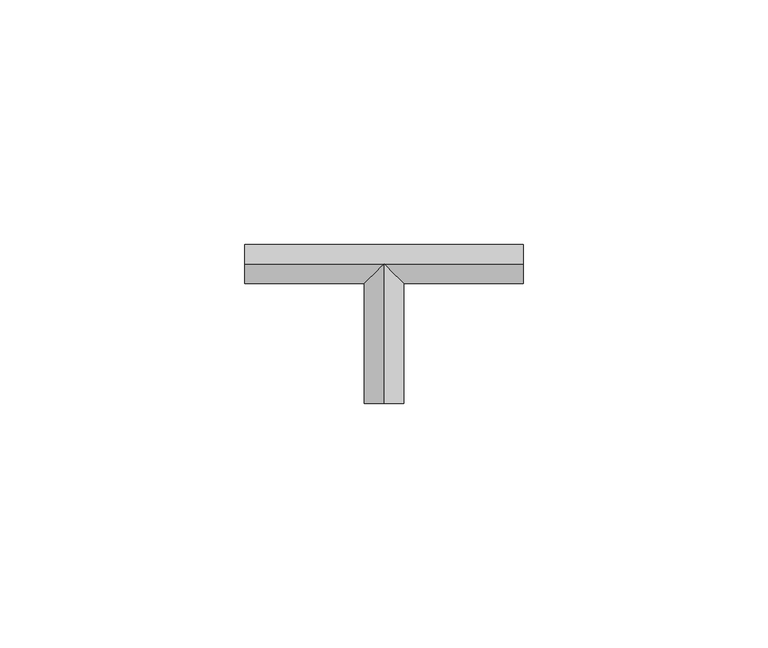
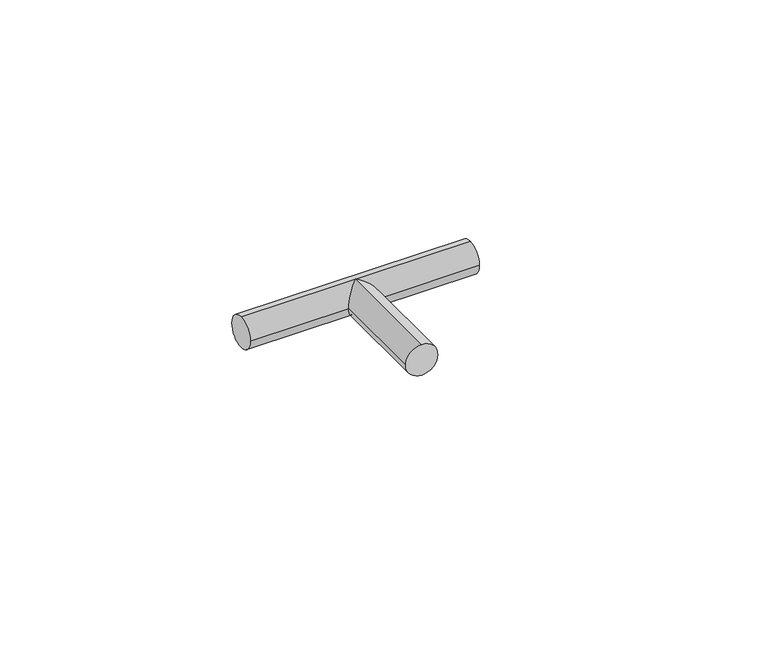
"""IFC4 building model written with IfcOpenShell, lengths in millimetres: duct fitting geometry, КНС_Тройник_Пруток_Неспецифицируемое_DKC : NG3104CU_NG3109CU_Медь."""

import ifcopenshell
import ifcopenshell.guid

model = None  # the IFC model being written
_history = None  # IfcOwnerHistory: only IFC2X3 demands one
_inside = {}  # id of a spatial element -> (the spatial element, [elements in it])
_under = {}  # id of a project, library or spatial element -> (it, [spatial elements below it])
_declared = {}  # id of a project -> (the project, [libraries it declares])
_typed = {}  # id of a type object -> (the type object, [elements of that type])
_made_of = {}  # id of a material, layer set ... -> (it, [elements and type objects made of it])


def new_model(schema):
    """Start an empty IFC model of exactly this schema.

    Asked for "IFC4X3", IfcOpenShell would pick the latest addendum, in which some entities
    have other attributes; the version numbers below select the first issue.
    IFC2X3 requires an IfcOwnerHistory on every rooted entity: one is made here for all.
    """
    global model, _history
    if schema == "IFC4X3":
        model = ifcopenshell.file(schema_version=(4, 3, 0, 0))
    else:
        model = ifcopenshell.file(schema=schema)
    _inside.clear()
    _under.clear()
    _declared.clear()
    _typed.clear()
    _made_of.clear()
    _history = None
    if model.schema == "IFC2X3":
        org = make("IfcOrganization", Name="unknown")
        user = make(
            "IfcPersonAndOrganization",
            ThePerson=make("IfcPerson", FamilyName="unknown"),
            TheOrganization=org,
        )
        app = make(
            "IfcApplication",
            ApplicationDeveloper=org,
            Version="unknown",
            ApplicationFullName="unknown",
            ApplicationIdentifier="unknown",
        )
        _history = make(
            "IfcOwnerHistory",
            OwningUser=user,
            OwningApplication=app,
            ChangeAction="ADDED",
            CreationDate=0,
        )
    return model


def make(cls, **values):
    """One entity of the class cls with the attributes given. An attribute that is None is left unset."""
    return model.create_entity(
        cls, **{name: value for name, value in values.items() if value is not None}
    )


def rooted(cls, **values):
    """An entity with a GlobalId (a new one), such as an element, a storey or a relation."""
    return make(cls, GlobalId=ifcopenshell.guid.new(), OwnerHistory=_history, **values)


def si_unit(unit_type, name, prefix=None):
    """IfcSIUnit, for example si_unit("LENGTHUNIT", "METRE", prefix="MILLI")."""
    return make("IfcSIUnit", UnitType=unit_type, Prefix=prefix, Name=name)


def assignment(units):
    """IfcUnitAssignment: the units of a project."""
    return None if units is None else make("IfcUnitAssignment", Units=units)


def point(xyz):
    """IfcCartesianPoint."""
    return None if xyz is None else make("IfcCartesianPoint", Coordinates=xyz)


def direction(xyz):
    """IfcDirection."""
    return None if xyz is None else make("IfcDirection", DirectionRatios=xyz)


def frame(location, z_axis=None, x_axis=None):
    """IfcAxis2Placement3D, a coordinate frame: its origin and axes. An axis left out is left unset."""
    return make(
        "IfcAxis2Placement3D",
        Location=point(location),
        Axis=direction(z_axis),
        RefDirection=direction(x_axis),
    )


def origin():
    """The frame at (0, 0, 0) with its axes left unset."""
    return frame((0.0, 0.0, 0.0))


def place(relative_to, where):
    """IfcLocalPlacement: puts the frame where relative to a parent placement (None: the world)."""
    return make(
        "IfcLocalPlacement", PlacementRelTo=relative_to, RelativePlacement=where
    )


def context(
    kind, dimensions, precision=None, world=None, true_north=None, identifier=None
):
    """IfcGeometricRepresentationContext, for example the 3D "Model" context."""
    return make(
        "IfcGeometricRepresentationContext",
        ContextIdentifier=identifier,
        ContextType=kind,
        CoordinateSpaceDimension=dimensions,
        Precision=precision,
        WorldCoordinateSystem=world,
        TrueNorth=true_north,
    )


def project(units=None, contexts=None):
    """IfcProject with its units and contexts."""
    return rooted(
        "IfcProject",
        Name="project",
        RepresentationContexts=contexts,
        UnitsInContext=assignment(units),
    )


def spatial(cls, under=None, at=None, **own):
    """A site, building, storey or space (cls), placed at a placement, below another one or the project."""
    s = rooted(cls, ObjectPlacement=at, **own)
    if under is not None:
        _under.setdefault(under.id(), (under, []))[1].append(s)
    return s


def circle_curve(where, radius):
    """IfcCircle in the frame where."""
    return make("IfcCircle", Position=where, Radius=radius)


def ellipse_curve(where, semi_axis1, semi_axis2):
    """IfcEllipse in the frame where."""
    return make(
        "IfcEllipse", Position=where, SemiAxis1=semi_axis1, SemiAxis2=semi_axis2
    )


def shape(context_of_items, identifier, shape_type, items):
    """IfcShapeRepresentation: the items that make up one representation, for example the "Body"."""
    return make(
        "IfcShapeRepresentation",
        ContextOfItems=context_of_items,
        RepresentationIdentifier=identifier,
        RepresentationType=shape_type,
        Items=items,
    )


def source(mapping_origin, context_of_items, identifier, shape_type, items):
    """IfcRepresentationMap: a shape defined once, which mapped items show again and again."""
    return make(
        "IfcRepresentationMap",
        MappingOrigin=mapping_origin,
        MappedRepresentation=shape(context_of_items, identifier, shape_type, items),
    )


def transform(
    local_origin,
    x_axis=None,
    y_axis=None,
    z_axis=None,
    scale=None,
    scale2=None,
    scale3=None,
    uniform=True,
):
    """IfcCartesianTransformationOperator3D, or its non-uniform kind. x_axis, y_axis, z_axis: its Axis1, 2, 3."""
    if uniform:
        return make(
            "IfcCartesianTransformationOperator3D",
            Axis1=direction(x_axis),
            Axis2=direction(y_axis),
            LocalOrigin=point(local_origin),
            Scale=scale,
            Axis3=direction(z_axis),
        )
    return make(
        "IfcCartesianTransformationOperator3DnonUniform",
        Axis1=direction(x_axis),
        Axis2=direction(y_axis),
        LocalOrigin=point(local_origin),
        Scale=scale,
        Axis3=direction(z_axis),
        Scale2=scale2,
        Scale3=scale3,
    )


def mapped(mapping_source, mapping_target):
    """IfcMappedItem: shows the shape of a source again, moved by a transform."""
    return make(
        "IfcMappedItem", MappingSource=mapping_source, MappingTarget=mapping_target
    )


def made_of(thing, what):
    """Note that an element or type object is made of a material, layer set ...; save() writes the relation."""
    if what is not None:
        _made_of.setdefault(what.id(), (what, []))[1].append(thing)
    return thing


def element(
    cls,
    number,
    at=None,
    inside=None,
    cuts=None,
    type_object=None,
    material=None,
    context=None,
    identifier="Body",
    shape_type=None,
    held_by="IfcProductDefinitionShape",
    body=None,
    shapes=None,
    **own,
):
    """One element of the class cls, such as IfcWall. Its Tag is "e" and its number.

    at: its placement. inside: the storey or other place that contains it. cuts: it is an
    opening in that element (IfcRelVoidsElement). A single representation is given by context,
    identifier, shape_type and body (its items); several are given by shapes. held_by: the class
    of the entity that holds the representations. save() writes the other relations.
    """
    e = rooted(cls, Tag="e%d" % number, ObjectPlacement=at, **own)
    if body is not None:
        shapes = [shape(context, identifier, shape_type, body)]
    if shapes is not None:
        e.Representation = make(held_by, Representations=shapes)
    if inside is not None:
        _inside.setdefault(inside.id(), (inside, []))[1].append(e)
    if cuts is not None:
        rooted(
            "IfcRelVoidsElement", RelatingBuildingElement=cuts, RelatedOpeningElement=e
        )
    if type_object is not None:
        _typed.setdefault(type_object.id(), (type_object, []))[1].append(e)
    return made_of(e, material)


def aggregate(whole, parts):
    """IfcRelAggregates: a whole, such as a stair, and the parts it consists of."""
    return rooted("IfcRelAggregates", RelatingObject=whole, RelatedObjects=parts)


def save(model, path):
    """Write the relations noted so far, then the file.

    IfcRelAggregates (storeys below a building ...), IfcRelContainedInSpatialStructure (elements
    in a storey), IfcRelDefinesByType, IfcRelAssociatesMaterial and IfcRelDeclares: one each for
    every whole, place, type object, material and project.
    """
    for whole, parts in _under.values():
        aggregate(whole, parts)
    for where, things in _inside.values():
        rooted(
            "IfcRelContainedInSpatialStructure",
            RelatedElements=things,
            RelatingStructure=where,
        )
    for kind, things in _typed.values():
        rooted("IfcRelDefinesByType", RelatedObjects=things, RelatingType=kind)
    for what, things in _made_of.values():
        rooted("IfcRelAssociatesMaterial", RelatedObjects=things, RelatingMaterial=what)
    for by, libraries in _declared.values():
        rooted("IfcRelDeclares", RelatingContext=by, RelatedDefinitions=libraries)
    model.write(path)


def plane_surface(at):
    """IfcPlane: the flat surface through the origin of the frame at, square to its z axis."""
    return make("IfcPlane", Position=at)


def cylinder_surface(at, radius):
    """IfcCylindricalSurface: all points at the distance radius from the z axis of the frame at."""
    return make("IfcCylindricalSurface", Position=at, Radius=radius)


def advanced_brep(points, edges, surfaces, faces):
    """IfcAdvancedBrep: a solid bounded by faces that lie on surfaces and meet in shared edges.

    An edge is (start, end): straight between two places in points (the first is 0);
    or (start, end, curve); or (start, end, curve, False) where it runs against its curve.
    A face is (place in surfaces, loops), or (place, loops, False) where it looks against
    its surface's normal. A loop lists edges by number (the first is 1), with a minus sign
    where the edge is run from its end to its start. The first loop is the outer one.
    """
    corners = [point(p) for p in points]
    vertices = [make("IfcVertexPoint", VertexGeometry=c) for c in corners]
    made = []
    for start, end, *more in edges:
        made.append(
            make(
                "IfcEdgeCurve",
                EdgeStart=vertices[start],
                EdgeEnd=vertices[end],
                EdgeGeometry=more[0] if more else make("IfcPolyline", Points=[corners[start], corners[end]]),
                SameSense=more[1] if len(more) > 1 else True,
            )
        )
    hull = []
    for where, loops, *sense in faces:
        bounds = []
        for j, loop in enumerate(loops):
            ring = [make("IfcOrientedEdge", EdgeElement=made[abs(k) - 1], Orientation=k > 0) for k in loop]
            bounds.append(
                make(
                    "IfcFaceOuterBound" if j == 0 else "IfcFaceBound",
                    Bound=make("IfcEdgeLoop", EdgeList=ring),
                    Orientation=True,
                )
            )
        hull.append(make("IfcAdvancedFace", Bounds=bounds, FaceSurface=surfaces[where], SameSense=sense[0] if sense else True))
    return make("IfcAdvancedBrep", Outer=make("IfcClosedShell", CfsFaces=hull))


def duct_fitting_7ecd3d40(model_context):
    return source(origin(), model_context, "Body", "AdvancedBrep", [
        advanced_brep(
        [(0.0, -28.5, 4.0), (-4.0, -28.5, 0.0), (0.0, -28.5, -4.0), (4.0, -28.5, 0.0), (4.0, -4.0, 0.0), (0.0, 0.0, 4.0), (0.0, 0.0, -4.0), (-4.0, -4.0, 0.0), (-28.5, 0.0, 4.0), (-28.5, 4.0, 0.0), (-28.5, 0.0, -4.0), (-28.5, -4.0, 0.0), (28.5, 0.0, 4.0), (28.5, -4.0, 0.0), (28.5, 0.0, -4.0), (28.5, 4.0, 0.0)],
        [
            (0, 1, circle_curve(frame((0.0, -28.5, 0.0), z_axis=(0.0, -1.0, 0.0), x_axis=(1.0, 0.0, 0.0)), 4.0)),
            (1, 2, circle_curve(frame((0.0, -28.5, 0.0), z_axis=(0.0, -1.0, 0.0), x_axis=(1.0, 0.0, 0.0)), 4.0)),
            (2, 3, circle_curve(frame((0.0, -28.5, 0.0), z_axis=(0.0, -1.0, 0.0), x_axis=(1.0, 0.0, 0.0)), 4.0)),
            (3, 0, circle_curve(frame((0.0, -28.5, 0.0), z_axis=(0.0, -1.0, 0.0), x_axis=(1.0, 0.0, 0.0)), 4.0)),
            (3, 4),
            (4, 5, ellipse_curve(frame((0.0, 0.0, 0.0), z_axis=(-0.7071067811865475, -0.7071067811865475, 0.0), x_axis=(-0.7071067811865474, 0.7071067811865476, 0.0)), 5.6568542, 4.0)),
            (5, 0),
            (2, 6),
            (6, 4, ellipse_curve(frame((0.0, 0.0, 0.0), z_axis=(-0.7071067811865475, -0.7071067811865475, 0.0), x_axis=(-0.7071067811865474, 0.7071067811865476, 0.0)), 5.6568542, 4.0)),
            (1, 7),
            (7, 6, ellipse_curve(frame((0.0, 0.0, 0.0), z_axis=(0.7071067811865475, -0.7071067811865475, 0.0), x_axis=(0.7071067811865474, 0.7071067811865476, 0.0)), 5.6568542, 4.0)),
            (5, 7, ellipse_curve(frame((0.0, 0.0, 0.0), z_axis=(0.7071067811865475, -0.7071067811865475, 0.0), x_axis=(0.7071067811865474, 0.7071067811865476, 0.0)), 5.6568542, 4.0)),
            (8, 9, circle_curve(frame((-28.5, 0.0, 0.0), z_axis=(-1.0, 0.0, 0.0), x_axis=(0.0, 1.0, 0.0)), 4.0)),
            (9, 10, circle_curve(frame((-28.5, 0.0, 0.0), z_axis=(-1.0, 0.0, 0.0), x_axis=(0.0, 1.0, 0.0)), 4.0)),
            (10, 11, circle_curve(frame((-28.5, 0.0, 0.0), z_axis=(-1.0, 0.0, 0.0), x_axis=(0.0, 1.0, 0.0)), 4.0)),
            (11, 8, circle_curve(frame((-28.5, 0.0, 0.0), z_axis=(-1.0, 0.0, 0.0), x_axis=(0.0, 1.0, 0.0)), 4.0)),
            (12, 13, circle_curve(frame((28.5, 0.0, 0.0), z_axis=(1.0, 0.0, 0.0), x_axis=(0.0, 1.0, 0.0)), 4.0)),
            (13, 14, circle_curve(frame((28.5, 0.0, 0.0), z_axis=(1.0, 0.0, 0.0), x_axis=(0.0, 1.0, 0.0)), 4.0)),
            (14, 15, circle_curve(frame((28.5, 0.0, 0.0), z_axis=(1.0, 0.0, 0.0), x_axis=(0.0, 1.0, 0.0)), 4.0)),
            (15, 12, circle_curve(frame((28.5, 0.0, 0.0), z_axis=(1.0, 0.0, 0.0), x_axis=(0.0, 1.0, 0.0)), 4.0)),
            (8, 5),
            (5, 12),
            (15, 9),
            (14, 6),
            (6, 10),
            (7, 11),
            (13, 4),
        ],
        [
            plane_surface(frame((0.0, -28.5, 0.0), z_axis=(0.0, -1.0, 0.0), x_axis=(0.0, 0.0, 1.0))),
            cylinder_surface(frame((0.0, 0.0, 0.0), z_axis=(0.0, 1.0, 0.0), x_axis=(1.0, 0.0, 0.0)), 4.0),
            plane_surface(frame((-28.5, 0.0, 0.0), z_axis=(-1.0, 0.0, 0.0), x_axis=(0.0, 0.0, 1.0))),
            plane_surface(frame((28.5, 0.0, 0.0), z_axis=(1.0, 0.0, 0.0), x_axis=(0.0, 0.0, 1.0))),
            cylinder_surface(frame((-28.5, 0.0, 0.0), z_axis=(-1.0, 0.0, 0.0), x_axis=(0.0, 1.0, 0.0)), 4.0),
        ],
        [
            (0, [[1, 2, 3, 4]]),
            (1, [[-4, 5, 6, 7]]),
            (1, [[-3, 8, 9, -5]]),
            (1, [[-2, 10, 11, -8]]),
            (1, [[-1, -7, 12, -10]]),
            (2, [[13, 14, 15, 16]]),
            (3, [[17, 18, 19, 20]]),
            (4, [[-13, 21, 22, -20, 23]]),
            (4, [[-14, -23, -19, 24, 25]]),
            (4, [[-15, -25, -11, 26]]),
            (4, [[-18, 27, -9, -24]]),
            (4, [[-16, -26, -12, -21]]),
            (4, [[-17, -22, -6, -27]]),
        ],
    ),
    ])


if __name__ == "__main__":
    model = new_model("IFC4")
    model_context = context("Model", 3, world=origin())
    ifc_project = project(units=[si_unit("LENGTHUNIT", "METRE", prefix="MILLI")], contexts=[model_context])
    site = spatial("IfcSite", under=ifc_project)
    building = spatial("IfcBuilding", under=site)
    placement = place(None, origin())
    duct_fitting_shape = duct_fitting_7ecd3d40(model_context)
    element("IfcDuctFitting", 1, ObjectType="КНС_Тройник_Пруток_Неспецифицируемое_DKC : NG3104CU_NG3109CU_Медь", at=placement, inside=building, context=model_context, shape_type="MappedRepresentation", body=[
        mapped(duct_fitting_shape, transform((0.0, 0.0, 0.0), x_axis=(1.0, 0.0, 0.0), y_axis=(0.0, 1.0, 0.0), z_axis=(0.0, 0.0, 1.0))),
    ])
    save(model, "model.ifc")
